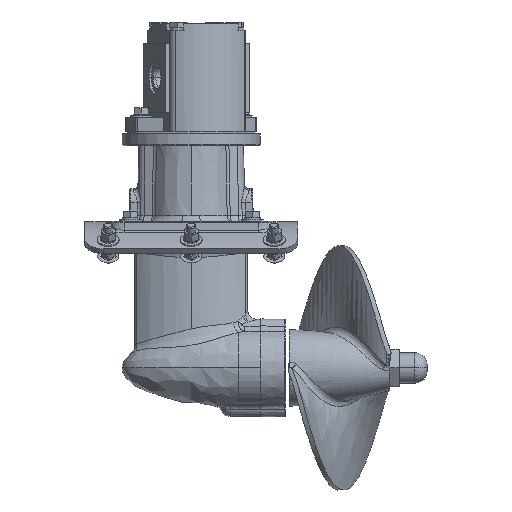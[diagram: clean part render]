
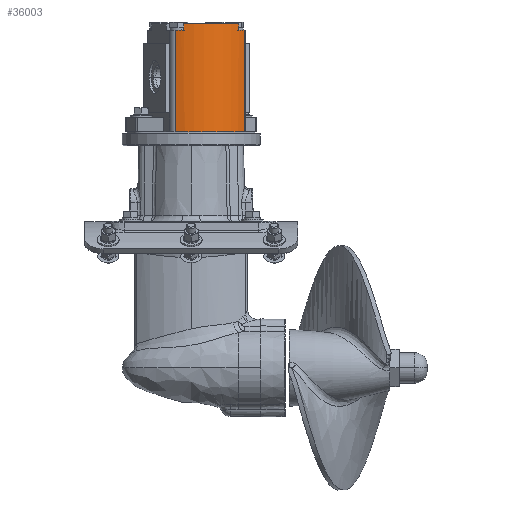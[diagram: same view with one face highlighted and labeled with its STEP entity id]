
A CAD part, top view. The second image highlights one B-rep face of the part: STEP entity #36003.
In plain terms, the highlighted cylindrical face has radius 63.093 mm (diameter 126.186 mm), a partial arc.
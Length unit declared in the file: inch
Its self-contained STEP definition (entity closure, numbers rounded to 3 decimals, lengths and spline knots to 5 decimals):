
#99 = CARTESIAN_POINT ( 'NONE',  ( -6.21447, 13.7275, 2.59748 ) ) ;
#1052 = AXIS2_PLACEMENT_3D ( 'NONE', #47517, #70490, #18761 ) ;
#2105 = VERTEX_POINT ( 'NONE', #53192 ) ;
#2178 = DIRECTION ( 'NONE',  ( 0., -1., 0. ) ) ;
#2500 = CIRCLE ( 'NONE', #44761, 2.48398 ) ;
#3447 = DIRECTION ( 'NONE',  ( 0., -1., 0. ) ) ;
#5506 = VERTEX_POINT ( 'NONE', #66382 ) ;
#6460 = EDGE_CURVE ( 'NONE', #67066, #5506, #15283, .T. ) ;
#11129 = VECTOR ( 'NONE', #16745, 39.37008 ) ;
#11449 = DIRECTION ( 'NONE',  ( 0., -1., 0. ) ) ;
#11665 = CARTESIAN_POINT ( 'NONE',  ( -5.87206, 13.4615, 0.13722 ) ) ;
#11991 = VECTOR ( 'NONE', #3447, 39.37008 ) ;
#12147 = ORIENTED_EDGE ( 'NONE', *, *, #6460, .T. ) ;
#12322 = CARTESIAN_POINT ( 'NONE',  ( -5.87206, 13.4615, 0.13722 ) ) ;
#13483 = EDGE_CURVE ( 'NONE', #68530, #70879, #43294, .T. ) ;
#14711 = EDGE_CURVE ( 'NONE', #66322, #68530, #32179, .T. ) ;
#15283 = LINE ( 'NONE', #38378, #26609 ) ;
#16556 = AXIS2_PLACEMENT_3D ( 'NONE', #50478, #73428, #21774 ) ;
#16653 = EDGE_CURVE ( 'NONE', #53062, #25362, #45479, .T. ) ;
#16745 = DIRECTION ( 'NONE',  ( 0., 1., 0. ) ) ;
#17130 = FACE_OUTER_BOUND ( 'NONE', #54452, .T. ) ;
#18761 = DIRECTION ( 'NONE',  ( 0.342, 0., 0.94 ) ) ;
#20741 = CARTESIAN_POINT ( 'NONE',  ( -4.02832, 13.7275, 1.80179 ) ) ;
#20984 = CIRCLE ( 'NONE', #63208, 2.48398 ) ;
#21774 = DIRECTION ( 'NONE',  ( 0.342, 0., 0.94 ) ) ;
#22748 = AXIS2_PLACEMENT_3D ( 'NONE', #63221, #11449, #34518 ) ;
#23414 = CARTESIAN_POINT ( 'NONE',  ( -4.02832, 13.4615, 1.80179 ) ) ;
#24415 = CARTESIAN_POINT ( 'NONE',  ( -3.80693, 9.4275, 1.51758 ) ) ;
#25362 = VERTEX_POINT ( 'NONE', #20741 ) ;
#25708 = ORIENTED_EDGE ( 'NONE', *, *, #37300, .F. ) ;
#26609 = VECTOR ( 'NONE', #61408, 39.37008 ) ;
#30245 = ORIENTED_EDGE ( 'NONE', *, *, #16653, .T. ) ;
#30665 = EDGE_CURVE ( 'NONE', #53062, #2105, #20984, .T. ) ;
#30907 = LINE ( 'NONE', #53929, #43108 ) ;
#32179 = LINE ( 'NONE', #55213, #11991 ) ;
#33220 = ORIENTED_EDGE ( 'NONE', *, *, #68721, .F. ) ;
#34518 = DIRECTION ( 'NONE',  ( -0.342, 0., -0.94 ) ) ;
#34748 = DIRECTION ( 'NONE',  ( 0., 1., 0. ) ) ;
#35409 = DIRECTION ( 'NONE',  ( 0., 1., 0. ) ) ;
#36003 = ADVANCED_FACE ( 'NONE', ( #17130 ), #40207, .T. ) ;
#37300 = EDGE_CURVE ( 'NONE', #2105, #70879, #30907, .T. ) ;
#37632 = ORIENTED_EDGE ( 'NONE', *, *, #30665, .F. ) ;
#38378 = CARTESIAN_POINT ( 'NONE',  ( -6.21447, 13.5945, 2.59748 ) ) ;
#40207 = CYLINDRICAL_SURFACE ( 'NONE', #22748, 2.48398 ) ;
#42464 = ORIENTED_EDGE ( 'NONE', *, *, #13483, .T. ) ;
#43108 = VECTOR ( 'NONE', #2178, 39.37008 ) ;
#43294 = CIRCLE ( 'NONE', #1052, 2.48398 ) ;
#44761 = AXIS2_PLACEMENT_3D ( 'NONE', #12322, #35409, #58444 ) ;
#45479 = LINE ( 'NONE', #68476, #11129 ) ;
#47517 = CARTESIAN_POINT ( 'NONE',  ( -5.87206, 9.4275, 0.13722 ) ) ;
#49141 = CIRCLE ( 'NONE', #16556, 2.48398 ) ;
#50478 = CARTESIAN_POINT ( 'NONE',  ( -5.87206, 13.7275, 0.13722 ) ) ;
#53062 = VERTEX_POINT ( 'NONE', #23414 ) ;
#53192 = CARTESIAN_POINT ( 'NONE',  ( -3.80693, 13.4615, 1.51758 ) ) ;
#53929 = CARTESIAN_POINT ( 'NONE',  ( -3.80693, 13.7275, 1.51758 ) ) ;
#54452 = EDGE_LOOP ( 'NONE', ( #33220, #12147, #70418, #72242, #42464, #25708, #37632, #30245 ) ) ;
#55213 = CARTESIAN_POINT ( 'NONE',  ( -6.56676, 13.7275, 2.52207 ) ) ;
#57794 = DIRECTION ( 'NONE',  ( 0.342, 0., 0.94 ) ) ;
#58444 = DIRECTION ( 'NONE',  ( 0.342, 0., 0.94 ) ) ;
#58906 = CARTESIAN_POINT ( 'NONE',  ( -6.56676, 13.4615, 2.52207 ) ) ;
#61408 = DIRECTION ( 'NONE',  ( 0., -1., 0. ) ) ;
#63208 = AXIS2_PLACEMENT_3D ( 'NONE', #11665, #34748, #57794 ) ;
#63221 = CARTESIAN_POINT ( 'NONE',  ( -5.87206, 13.7275, 0.13722 ) ) ;
#66322 = VERTEX_POINT ( 'NONE', #58906 ) ;
#66382 = CARTESIAN_POINT ( 'NONE',  ( -6.21447, 13.4615, 2.59748 ) ) ;
#67066 = VERTEX_POINT ( 'NONE', #99 ) ;
#68476 = CARTESIAN_POINT ( 'NONE',  ( -4.02832, 13.5945, 1.80179 ) ) ;
#68530 = VERTEX_POINT ( 'NONE', #71591 ) ;
#68721 = EDGE_CURVE ( 'NONE', #67066, #25362, #49141, .T. ) ;
#70418 = ORIENTED_EDGE ( 'NONE', *, *, #74204, .F. ) ;
#70490 = DIRECTION ( 'NONE',  ( 0., 1., 0. ) ) ;
#70879 = VERTEX_POINT ( 'NONE', #24415 ) ;
#71591 = CARTESIAN_POINT ( 'NONE',  ( -6.56676, 9.4275, 2.52207 ) ) ;
#72242 = ORIENTED_EDGE ( 'NONE', *, *, #14711, .T. ) ;
#73428 = DIRECTION ( 'NONE',  ( 0., 1., 0. ) ) ;
#74204 = EDGE_CURVE ( 'NONE', #66322, #5506, #2500, .T. ) ;
